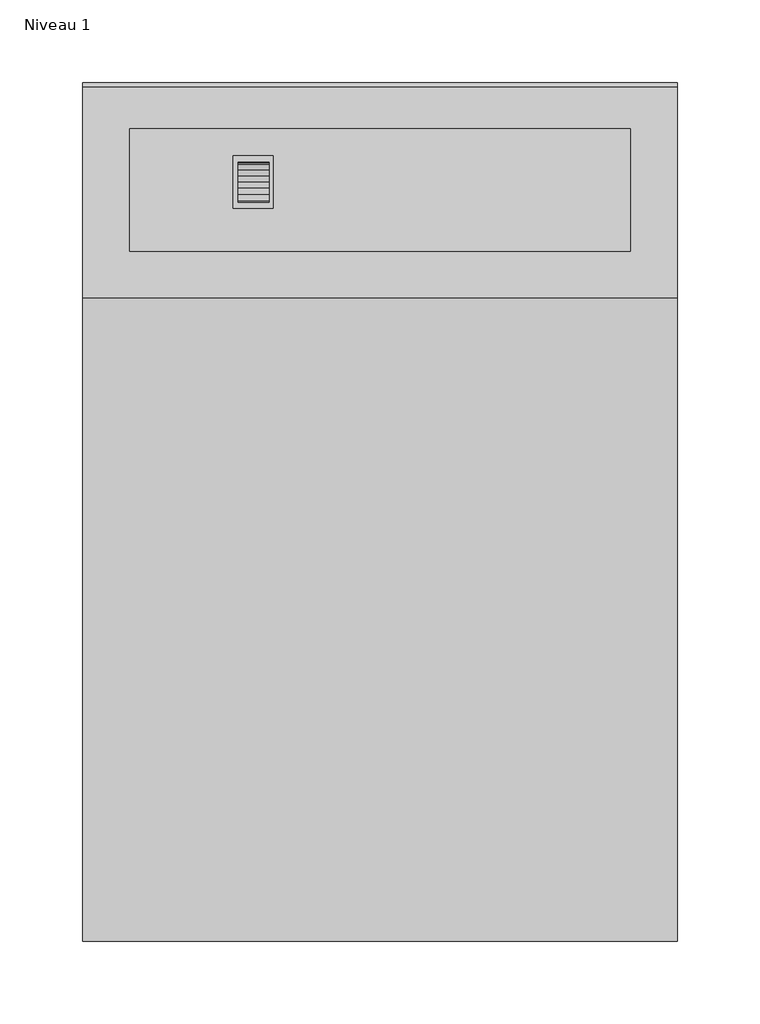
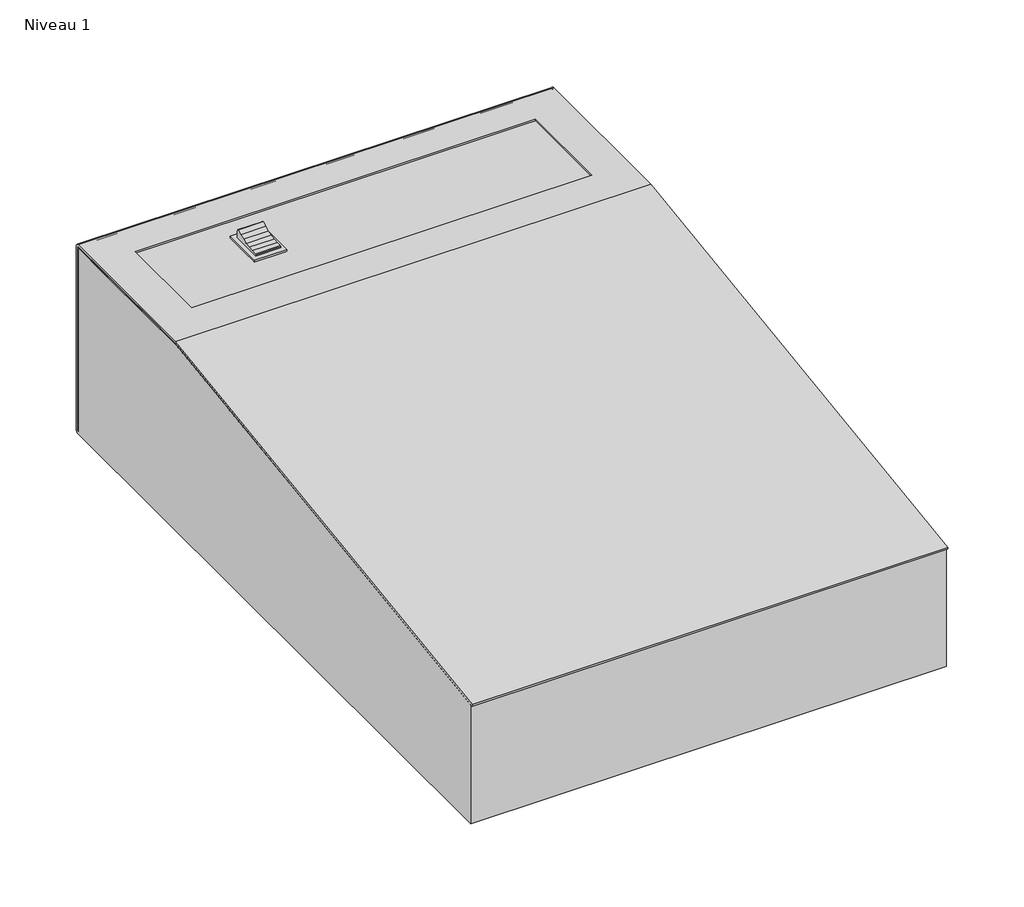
# One storey: 1 proxy.
"""IFC4 building model written with IfcOpenShell, lengths in millimetres."""

from ifc_helpers import new_model, si_unit, origin, place, context, project, spatial, transform, mapped, element, save
from components import titan_48v_25a_mural_titan_48v_25a_mural_561d1a2a

model = new_model("IFC4")

# Units and contexts
model_context = context("Model", 3, world=origin())
ifc_project = project(units=[si_unit("LENGTHUNIT", "METRE", prefix="MILLI")], contexts=[model_context])

# Site, building, storey
site = spatial("IfcSite", under=ifc_project)
building = spatial("IfcBuilding", under=site)
storey = spatial("IfcBuildingStorey", under=building, Name="Niveau 1", Elevation=0.0)

# Proxy
placement = place(None, origin())
titan_48v_25a_mural_titan_48v_25a_mural_shape = titan_48v_25a_mural_titan_48v_25a_mural_561d1a2a(model_context)
element("IfcBuildingElementProxy", 1, Name="TITAN 48V 25A MURAL : TITAN 48V 25A MURAL", ObjectType="TITAN 48V 25A MURAL : TITAN 48V 25A MURAL", at=placement, inside=storey, context=model_context, shape_type="MappedRepresentation", body=[
    mapped(titan_48v_25a_mural_titan_48v_25a_mural_shape, transform((-6976.4162127, 2885.5725523, 0.0), x_axis=(1.0, 0.0, 0.0), y_axis=(0.0, 1.0, 0.0), z_axis=(0.0, 0.0, 1.0))),
])

save(model, "model.ifc")
